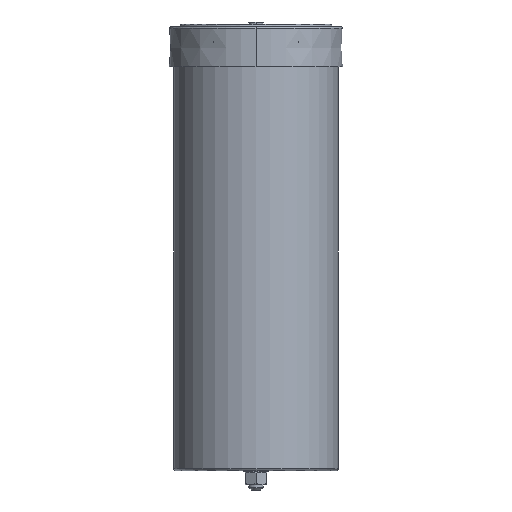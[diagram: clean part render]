
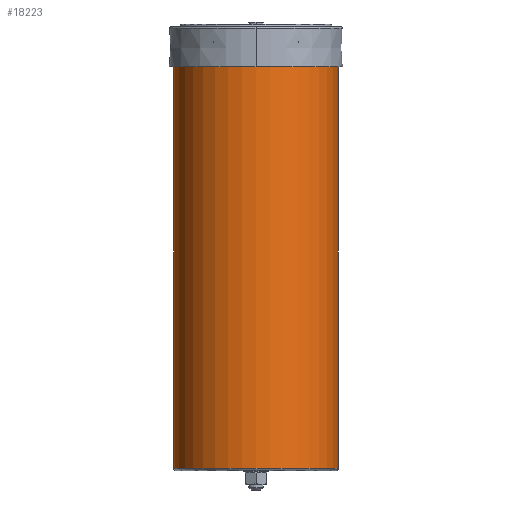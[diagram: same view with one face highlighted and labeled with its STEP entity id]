
A CAD part, left-side view. The second image highlights one B-rep face of the part: STEP entity #18223.
In plain terms, the highlighted cylindrical face has radius 68 mm (diameter 136 mm), a partial arc.
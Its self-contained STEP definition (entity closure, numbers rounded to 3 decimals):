
#125 = VERTEX_POINT ( 'NONE', #20526 ) ;
#279 = CARTESIAN_POINT ( 'NONE',  ( 0., 0., 0.9 ) ) ;
#391 = CIRCLE ( 'NONE', #10425, 68. ) ;
#2279 = ORIENTED_EDGE ( 'NONE', *, *, #9517, .T. ) ;
#2522 = DIRECTION ( 'NONE',  ( 0., 1., 0. ) ) ;
#4058 = AXIS2_PLACEMENT_3D ( 'NONE', #279, #19880, #2522 ) ;
#4258 = FACE_OUTER_BOUND ( 'NONE', #15916, .T. ) ;
#4874 = CIRCLE ( 'NONE', #4058, 68. ) ;
#5372 = AXIS2_PLACEMENT_3D ( 'NONE', #20752, #26969, #9930 ) ;
#6966 = CARTESIAN_POINT ( 'NONE',  ( 0., -68., 0.9 ) ) ;
#7401 = EDGE_CURVE ( 'NONE', #15962, #15793, #16092, .T. ) ;
#8594 = CARTESIAN_POINT ( 'NONE',  ( 0., 68., 0.9 ) ) ;
#9115 = DIRECTION ( 'NONE',  ( 0., 0., -1. ) ) ;
#9517 = EDGE_CURVE ( 'NONE', #15962, #125, #4874, .T. ) ;
#9669 = VECTOR ( 'NONE', #16979, 1000. ) ;
#9930 = DIRECTION ( 'NONE',  ( 0., -1., 0. ) ) ;
#10140 = ORIENTED_EDGE ( 'NONE', *, *, #7401, .F. ) ;
#10425 = AXIS2_PLACEMENT_3D ( 'NONE', #13278, #21640, #13183 ) ;
#10450 = CARTESIAN_POINT ( 'NONE',  ( 0., -68., -361. ) ) ;
#11274 = CARTESIAN_POINT ( 'NONE',  ( 0., 0., -361. ) ) ;
#11625 = ORIENTED_EDGE ( 'NONE', *, *, #18648, .T. ) ;
#11665 = VECTOR ( 'NONE', #27435, 1000. ) ;
#12586 = EDGE_CURVE ( 'NONE', #125, #25365, #391, .T. ) ;
#13063 = CYLINDRICAL_SURFACE ( 'NONE', #14901, 68. ) ;
#13183 = DIRECTION ( 'NONE',  ( 0., 1., 0. ) ) ;
#13278 = CARTESIAN_POINT ( 'NONE',  ( 0., 0., 0.9 ) ) ;
#14901 = AXIS2_PLACEMENT_3D ( 'NONE', #11274, #9115, #26354 ) ;
#15793 = VERTEX_POINT ( 'NONE', #17466 ) ;
#15916 = EDGE_LOOP ( 'NONE', ( #2279, #20671, #11625, #16922, #10140 ) ) ;
#15962 = VERTEX_POINT ( 'NONE', #6966 ) ;
#16092 = LINE ( 'NONE', #10450, #9669 ) ;
#16922 = ORIENTED_EDGE ( 'NONE', *, *, #22399, .T. ) ;
#16979 = DIRECTION ( 'NONE',  ( 0., 0., -1. ) ) ;
#17466 = CARTESIAN_POINT ( 'NONE',  ( 0., -68., -359. ) ) ;
#18223 = ADVANCED_FACE ( 'NONE', ( #4258 ), #13063, .T. ) ;
#18648 = EDGE_CURVE ( 'NONE', #25365, #22977, #24814, .T. ) ;
#19880 = DIRECTION ( 'NONE',  ( 0., 0., -1. ) ) ;
#20526 = CARTESIAN_POINT ( 'NONE',  ( -68., 0., 0.9 ) ) ;
#20671 = ORIENTED_EDGE ( 'NONE', *, *, #12586, .T. ) ;
#20752 = CARTESIAN_POINT ( 'NONE',  ( 0., 0., -359. ) ) ;
#21640 = DIRECTION ( 'NONE',  ( 0., 0., -1. ) ) ;
#22399 = EDGE_CURVE ( 'NONE', #22977, #15793, #26556, .T. ) ;
#22977 = VERTEX_POINT ( 'NONE', #27118 ) ;
#24814 = LINE ( 'NONE', #25160, #11665 ) ;
#25160 = CARTESIAN_POINT ( 'NONE',  ( 0., 68., -361. ) ) ;
#25365 = VERTEX_POINT ( 'NONE', #8594 ) ;
#26354 = DIRECTION ( 'NONE',  ( 0., -1., 0. ) ) ;
#26556 = CIRCLE ( 'NONE', #5372, 68. ) ;
#26969 = DIRECTION ( 'NONE',  ( 0., 0., 1. ) ) ;
#27118 = CARTESIAN_POINT ( 'NONE',  ( 0., 68., -359. ) ) ;
#27435 = DIRECTION ( 'NONE',  ( 0., 0., -1. ) ) ;
